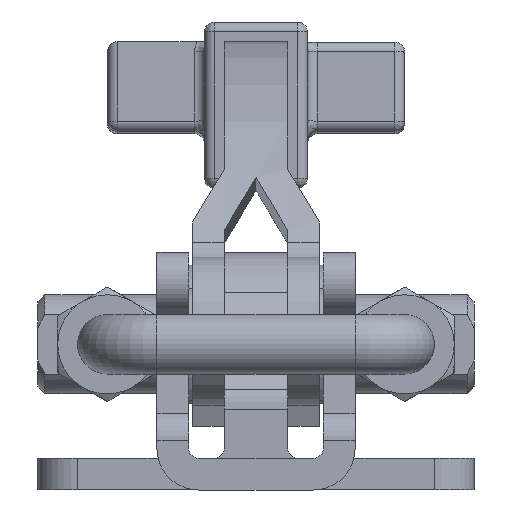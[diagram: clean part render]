
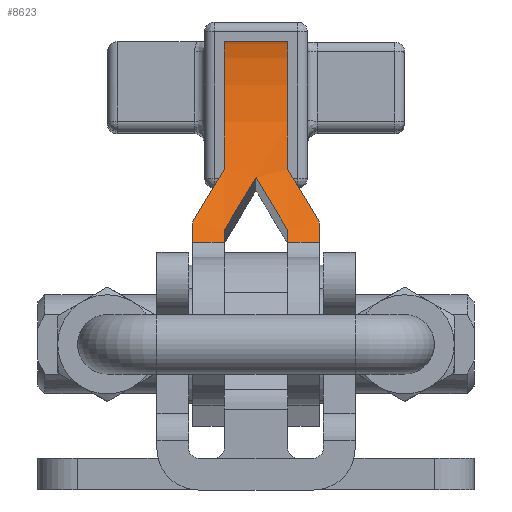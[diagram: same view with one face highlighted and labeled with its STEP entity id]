
A CAD part, front view. The second image highlights one B-rep face of the part: STEP entity #8623.
In plain terms, the highlighted cylindrical face has radius 50 mm (diameter 100 mm), a partial arc.
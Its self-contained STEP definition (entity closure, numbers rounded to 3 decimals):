
#7929=CARTESIAN_POINT('Control Point',(-3.2,23.271,26.219)) ;
#7930=CARTESIAN_POINT('Control Point',(-2.072,24.753,28.105)) ;
#7931=CARTESIAN_POINT('Control Point',(-1.001,26.371,29.884)) ;
#7932=CARTESIAN_POINT('Control Point',(0.,28.109,31.538)) ;
#7933=CARTESIAN_POINT('Cartesian Point',(-3.2,23.271,26.219)) ;
#7935=CARTESIAN_POINT('Cartesian Point',(0.,28.109,31.538)) ;
#7978=CARTESIAN_POINT('Axis2P3D Location',(-3.2,62.585,-4.674)) ;
#7982=CARTESIAN_POINT('Cartesian Point',(-3.2,22.335,24.989)) ;
#8077=CARTESIAN_POINT('Axis2P3D Location',(-6.4,62.585,-4.674)) ;
#8081=CARTESIAN_POINT('Cartesian Point',(-6.4,23.935,27.046)) ;
#8083=CARTESIAN_POINT('Cartesian Point',(-6.4,22.335,24.989)) ;
#8186=CARTESIAN_POINT('Control Point',(-6.4,23.935,27.046)) ;
#8187=CARTESIAN_POINT('Control Point',(-5.268,25.486,28.936)) ;
#8188=CARTESIAN_POINT('Control Point',(-4.197,27.177,30.712)) ;
#8189=CARTESIAN_POINT('Control Point',(-3.2,28.988,32.355)) ;
#8190=CARTESIAN_POINT('Cartesian Point',(-3.2,28.988,32.355)) ;
#8226=CARTESIAN_POINT('Axis2P3D Location',(-3.2,62.585,-4.674)) ;
#8230=CARTESIAN_POINT('Cartesian Point',(-3.2,64.949,45.27)) ;
#8265=CARTESIAN_POINT('Axis2P3D Location',(3.2,62.585,-4.674)) ;
#8269=CARTESIAN_POINT('Cartesian Point',(3.2,64.949,45.27)) ;
#8271=CARTESIAN_POINT('Cartesian Point',(3.2,28.988,32.355)) ;
#8314=CARTESIAN_POINT('Control Point',(6.4,23.935,27.046)) ;
#8315=CARTESIAN_POINT('Control Point',(5.268,25.486,28.936)) ;
#8316=CARTESIAN_POINT('Control Point',(4.197,27.177,30.712)) ;
#8317=CARTESIAN_POINT('Control Point',(3.2,28.988,32.355)) ;
#8318=CARTESIAN_POINT('Cartesian Point',(6.4,23.935,27.046)) ;
#8354=CARTESIAN_POINT('Axis2P3D Location',(6.4,62.585,-4.674)) ;
#8358=CARTESIAN_POINT('Cartesian Point',(6.4,22.335,24.989)) ;
#8453=CARTESIAN_POINT('Axis2P3D Location',(3.2,62.585,-4.674)) ;
#8457=CARTESIAN_POINT('Cartesian Point',(3.2,23.271,26.219)) ;
#8459=CARTESIAN_POINT('Cartesian Point',(3.2,22.335,24.989)) ;
#8562=CARTESIAN_POINT('Control Point',(3.2,23.271,26.219)) ;
#8563=CARTESIAN_POINT('Control Point',(2.072,24.753,28.105)) ;
#8564=CARTESIAN_POINT('Control Point',(1.001,26.371,29.884)) ;
#8565=CARTESIAN_POINT('Control Point',(0.,28.109,31.538)) ;
#8588=CARTESIAN_POINT('Axis2P3D Location',(7.,62.585,-4.674)) ;
#8593=CARTESIAN_POINT('Line Origine',(0.,22.335,24.989)) ;
#8598=CARTESIAN_POINT('Line Origine',(0.,64.949,45.27)) ;
#8603=CARTESIAN_POINT('Line Origine',(0.,22.335,24.989)) ;
#7979=DIRECTION('Axis2P3D Direction',(1.,0.,0.)) ;
#8078=DIRECTION('Axis2P3D Direction',(1.,0.,0.)) ;
#8227=DIRECTION('Axis2P3D Direction',(1.,0.,0.)) ;
#8266=DIRECTION('Axis2P3D Direction',(1.,0.,0.)) ;
#8355=DIRECTION('Axis2P3D Direction',(1.,0.,0.)) ;
#8454=DIRECTION('Axis2P3D Direction',(1.,0.,0.)) ;
#8589=DIRECTION('Axis2P3D Direction',(-1.,0.,0.)) ;
#8590=DIRECTION('Axis2P3D XDirection',(0.,-0.805,0.593)) ;
#8594=DIRECTION('Vector Direction',(-1.,0.,0.)) ;
#8599=DIRECTION('Vector Direction',(-1.,0.,0.)) ;
#8604=DIRECTION('Vector Direction',(-1.,0.,0.)) ;
#7980=AXIS2_PLACEMENT_3D('Circle Axis2P3D',#7978,#7979,$) ;
#8079=AXIS2_PLACEMENT_3D('Circle Axis2P3D',#8077,#8078,$) ;
#8228=AXIS2_PLACEMENT_3D('Circle Axis2P3D',#8226,#8227,$) ;
#8267=AXIS2_PLACEMENT_3D('Circle Axis2P3D',#8265,#8266,$) ;
#8356=AXIS2_PLACEMENT_3D('Circle Axis2P3D',#8354,#8355,$) ;
#8455=AXIS2_PLACEMENT_3D('Circle Axis2P3D',#8453,#8454,$) ;
#8591=AXIS2_PLACEMENT_3D('Cylinder Axis2P3D',#8588,#8589,#8590) ;
#8609=ORIENTED_EDGE('Oriented Edge',*,*,#7937,.T.) ;
#8610=ORIENTED_EDGE('Oriented Edge',*,*,#8566,.F.) ;
#8611=ORIENTED_EDGE('Oriented Edge',*,*,#8461,.T.) ;
#8612=ORIENTED_EDGE('Oriented Edge',*,*,#8597,.F.) ;
#8613=ORIENTED_EDGE('Oriented Edge',*,*,#8360,.F.) ;
#8614=ORIENTED_EDGE('Oriented Edge',*,*,#8320,.T.) ;
#8615=ORIENTED_EDGE('Oriented Edge',*,*,#8273,.F.) ;
#8616=ORIENTED_EDGE('Oriented Edge',*,*,#8602,.T.) ;
#8617=ORIENTED_EDGE('Oriented Edge',*,*,#8232,.T.) ;
#8618=ORIENTED_EDGE('Oriented Edge',*,*,#8192,.F.) ;
#8619=ORIENTED_EDGE('Oriented Edge',*,*,#8085,.T.) ;
#8620=ORIENTED_EDGE('Oriented Edge',*,*,#8607,.F.) ;
#8621=ORIENTED_EDGE('Oriented Edge',*,*,#7984,.F.) ;
#8595=VECTOR('Line Direction',#8594,1.) ;
#8600=VECTOR('Line Direction',#8599,1.) ;
#8605=VECTOR('Line Direction',#8604,1.) ;
#8623=ADVANCED_FACE('',(#8622),#8592,.T.) ;
#7928=B_SPLINE_CURVE_WITH_KNOTS('BSpline Curve',3,(#7929,#7930,#7931,#7932),.UNSPECIFIED.,.F.,.U.,(4,4),(407.171,418.164),.UNSPECIFIED.) ;
#8185=B_SPLINE_CURVE_WITH_KNOTS('BSpline Curve',3,(#8186,#8187,#8188,#8189),.UNSPECIFIED.,.F.,.U.,(4,4),(408.791,419.997),.UNSPECIFIED.) ;
#8313=B_SPLINE_CURVE_WITH_KNOTS('BSpline Curve',3,(#8314,#8315,#8316,#8317),.UNSPECIFIED.,.F.,.U.,(4,4),(168.848,180.054),.UNSPECIFIED.) ;
#8561=B_SPLINE_CURVE_WITH_KNOTS('BSpline Curve',3,(#8562,#8563,#8564,#8565),.UNSPECIFIED.,.F.,.U.,(4,4),(167.228,178.221),.UNSPECIFIED.) ;
#7981=CIRCLE('generated circle',#7980,50.) ;
#8080=CIRCLE('generated circle',#8079,50.) ;
#8229=CIRCLE('generated circle',#8228,50.) ;
#8268=CIRCLE('generated circle',#8267,50.) ;
#8357=CIRCLE('generated circle',#8356,50.) ;
#8456=CIRCLE('generated circle',#8455,50.) ;
#8592=CYLINDRICAL_SURFACE('generated cylinder',#8591,50.) ;
#7937=EDGE_CURVE('',#7934,#7936,#7928,.T.) ;
#7984=EDGE_CURVE('',#7934,#7983,#7981,.T.) ;
#8085=EDGE_CURVE('',#8082,#8084,#8080,.T.) ;
#8192=EDGE_CURVE('',#8082,#8191,#8185,.T.) ;
#8232=EDGE_CURVE('',#8231,#8191,#8229,.T.) ;
#8273=EDGE_CURVE('',#8270,#8272,#8268,.T.) ;
#8320=EDGE_CURVE('',#8319,#8272,#8313,.T.) ;
#8360=EDGE_CURVE('',#8319,#8359,#8357,.T.) ;
#8461=EDGE_CURVE('',#8458,#8460,#8456,.T.) ;
#8566=EDGE_CURVE('',#8458,#7936,#8561,.T.) ;
#8597=EDGE_CURVE('',#8359,#8460,#8596,.T.) ;
#8602=EDGE_CURVE('',#8270,#8231,#8601,.T.) ;
#8607=EDGE_CURVE('',#7983,#8084,#8606,.T.) ;
#8608=EDGE_LOOP('Oriented Loop',(#8609,#8610,#8611,#8612,#8613,#8614,#8615,#8616,#8617,#8618,#8619,#8620,#8621)) ;
#8622=FACE_OUTER_BOUND('Face Bound',#8608,.T.) ;
#8596=LINE('Line',#8593,#8595) ;
#8601=LINE('Line',#8598,#8600) ;
#8606=LINE('Line',#8603,#8605) ;
#7934=VERTEX_POINT('Vertex Point',#7933) ;
#7936=VERTEX_POINT('Vertex Point',#7935) ;
#7983=VERTEX_POINT('Vertex Point',#7982) ;
#8082=VERTEX_POINT('Vertex Point',#8081) ;
#8084=VERTEX_POINT('Vertex Point',#8083) ;
#8191=VERTEX_POINT('Vertex Point',#8190) ;
#8231=VERTEX_POINT('Vertex Point',#8230) ;
#8270=VERTEX_POINT('Vertex Point',#8269) ;
#8272=VERTEX_POINT('Vertex Point',#8271) ;
#8319=VERTEX_POINT('Vertex Point',#8318) ;
#8359=VERTEX_POINT('Vertex Point',#8358) ;
#8458=VERTEX_POINT('Vertex Point',#8457) ;
#8460=VERTEX_POINT('Vertex Point',#8459) ;
